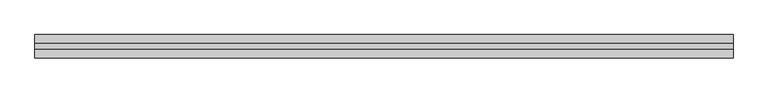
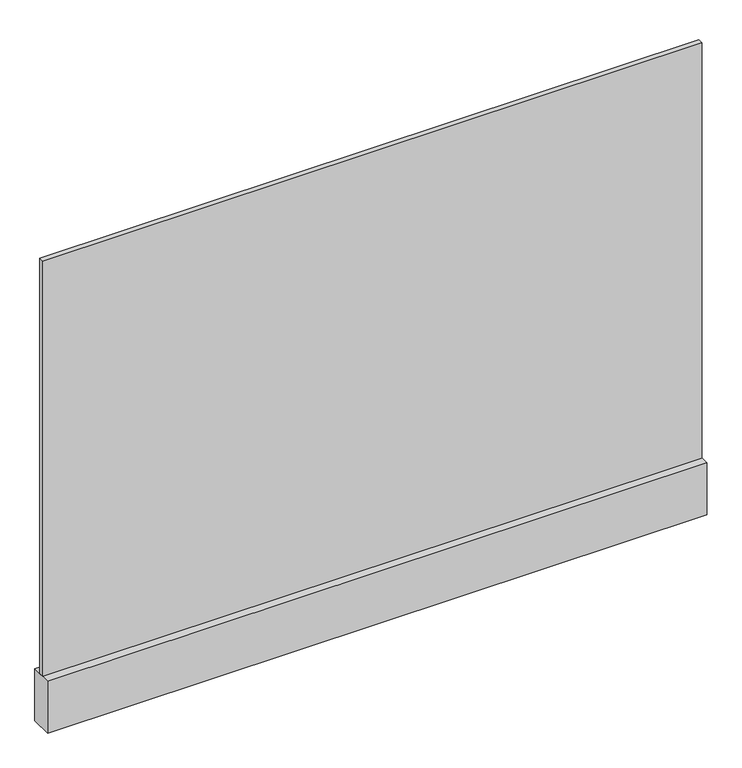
"""IFC4 building model written with IfcOpenShell, lengths in millimetres: plate geometry, r パネル FIX 下框付 : 框 H100."""

import ifcopenshell
import ifcopenshell.guid

model = None  # the IFC model being written
_history = None  # IfcOwnerHistory: only IFC2X3 demands one
_inside = {}  # id of a spatial element -> (the spatial element, [elements in it])
_under = {}  # id of a project, library or spatial element -> (it, [spatial elements below it])
_declared = {}  # id of a project -> (the project, [libraries it declares])
_typed = {}  # id of a type object -> (the type object, [elements of that type])
_made_of = {}  # id of a material, layer set ... -> (it, [elements and type objects made of it])


def new_model(schema):
    """Start an empty IFC model of exactly this schema.

    Asked for "IFC4X3", IfcOpenShell would pick the latest addendum, in which some entities
    have other attributes; the version numbers below select the first issue.
    IFC2X3 requires an IfcOwnerHistory on every rooted entity: one is made here for all.
    """
    global model, _history
    if schema == "IFC4X3":
        model = ifcopenshell.file(schema_version=(4, 3, 0, 0))
    else:
        model = ifcopenshell.file(schema=schema)
    _inside.clear()
    _under.clear()
    _declared.clear()
    _typed.clear()
    _made_of.clear()
    _history = None
    if model.schema == "IFC2X3":
        org = make("IfcOrganization", Name="unknown")
        user = make(
            "IfcPersonAndOrganization",
            ThePerson=make("IfcPerson", FamilyName="unknown"),
            TheOrganization=org,
        )
        app = make(
            "IfcApplication",
            ApplicationDeveloper=org,
            Version="unknown",
            ApplicationFullName="unknown",
            ApplicationIdentifier="unknown",
        )
        _history = make(
            "IfcOwnerHistory",
            OwningUser=user,
            OwningApplication=app,
            ChangeAction="ADDED",
            CreationDate=0,
        )
    return model


def make(cls, **values):
    """One entity of the class cls with the attributes given. An attribute that is None is left unset."""
    return model.create_entity(
        cls, **{name: value for name, value in values.items() if value is not None}
    )


def rooted(cls, **values):
    """An entity with a GlobalId (a new one), such as an element, a storey or a relation."""
    return make(cls, GlobalId=ifcopenshell.guid.new(), OwnerHistory=_history, **values)


def si_unit(unit_type, name, prefix=None):
    """IfcSIUnit, for example si_unit("LENGTHUNIT", "METRE", prefix="MILLI")."""
    return make("IfcSIUnit", UnitType=unit_type, Prefix=prefix, Name=name)


def assignment(units):
    """IfcUnitAssignment: the units of a project."""
    return None if units is None else make("IfcUnitAssignment", Units=units)


def point(xyz):
    """IfcCartesianPoint."""
    return None if xyz is None else make("IfcCartesianPoint", Coordinates=xyz)


def direction(xyz):
    """IfcDirection."""
    return None if xyz is None else make("IfcDirection", DirectionRatios=xyz)


def frame(location, z_axis=None, x_axis=None):
    """IfcAxis2Placement3D, a coordinate frame: its origin and axes. An axis left out is left unset."""
    return make(
        "IfcAxis2Placement3D",
        Location=point(location),
        Axis=direction(z_axis),
        RefDirection=direction(x_axis),
    )


def origin():
    """The frame at (0, 0, 0) with its axes left unset."""
    return frame((0.0, 0.0, 0.0))


def origin_with_axes():
    """The frame at (0, 0, 0) with the z axis (0, 0, 1) and the x axis (1, 0, 0) written out."""
    return frame((0.0, 0.0, 0.0), z_axis=(0.0, 0.0, 1.0), x_axis=(1.0, 0.0, 0.0))


def place(relative_to, where):
    """IfcLocalPlacement: puts the frame where relative to a parent placement (None: the world)."""
    return make(
        "IfcLocalPlacement", PlacementRelTo=relative_to, RelativePlacement=where
    )


def context(
    kind, dimensions, precision=None, world=None, true_north=None, identifier=None
):
    """IfcGeometricRepresentationContext, for example the 3D "Model" context."""
    return make(
        "IfcGeometricRepresentationContext",
        ContextIdentifier=identifier,
        ContextType=kind,
        CoordinateSpaceDimension=dimensions,
        Precision=precision,
        WorldCoordinateSystem=world,
        TrueNorth=true_north,
    )


def project(units=None, contexts=None):
    """IfcProject with its units and contexts."""
    return rooted(
        "IfcProject",
        Name="project",
        RepresentationContexts=contexts,
        UnitsInContext=assignment(units),
    )


def spatial(cls, under=None, at=None, **own):
    """A site, building, storey or space (cls), placed at a placement, below another one or the project."""
    s = rooted(cls, ObjectPlacement=at, **own)
    if under is not None:
        _under.setdefault(under.id(), (under, []))[1].append(s)
    return s


def polyline(points):
    """IfcPolyline through the points."""
    return make("IfcPolyline", Points=[point(p) for p in points])


def outline(outer, holes=None, kind="AREA"):
    """IfcArbitraryClosedProfileDef: a profile drawn as a closed curve; with holes, ...WithVoids."""
    if holes is None:
        return make("IfcArbitraryClosedProfileDef", ProfileType=kind, OuterCurve=outer)
    return make(
        "IfcArbitraryProfileDefWithVoids",
        ProfileType=kind,
        OuterCurve=outer,
        InnerCurves=holes,
    )


def extrude(swept, where, along, depth):
    """IfcExtrudedAreaSolid: the profile swept, set in the frame where, extruded along a direction by depth."""
    return make(
        "IfcExtrudedAreaSolid",
        SweptArea=swept,
        Position=where,
        ExtrudedDirection=direction(along),
        Depth=depth,
    )


def shape(context_of_items, identifier, shape_type, items):
    """IfcShapeRepresentation: the items that make up one representation, for example the "Body"."""
    return make(
        "IfcShapeRepresentation",
        ContextOfItems=context_of_items,
        RepresentationIdentifier=identifier,
        RepresentationType=shape_type,
        Items=items,
    )


def source(mapping_origin, context_of_items, identifier, shape_type, items):
    """IfcRepresentationMap: a shape defined once, which mapped items show again and again."""
    return make(
        "IfcRepresentationMap",
        MappingOrigin=mapping_origin,
        MappedRepresentation=shape(context_of_items, identifier, shape_type, items),
    )


def transform(
    local_origin,
    x_axis=None,
    y_axis=None,
    z_axis=None,
    scale=None,
    scale2=None,
    scale3=None,
    uniform=True,
):
    """IfcCartesianTransformationOperator3D, or its non-uniform kind. x_axis, y_axis, z_axis: its Axis1, 2, 3."""
    if uniform:
        return make(
            "IfcCartesianTransformationOperator3D",
            Axis1=direction(x_axis),
            Axis2=direction(y_axis),
            LocalOrigin=point(local_origin),
            Scale=scale,
            Axis3=direction(z_axis),
        )
    return make(
        "IfcCartesianTransformationOperator3DnonUniform",
        Axis1=direction(x_axis),
        Axis2=direction(y_axis),
        LocalOrigin=point(local_origin),
        Scale=scale,
        Axis3=direction(z_axis),
        Scale2=scale2,
        Scale3=scale3,
    )


def mapped(mapping_source, mapping_target):
    """IfcMappedItem: shows the shape of a source again, moved by a transform."""
    return make(
        "IfcMappedItem", MappingSource=mapping_source, MappingTarget=mapping_target
    )


def made_of(thing, what):
    """Note that an element or type object is made of a material, layer set ...; save() writes the relation."""
    if what is not None:
        _made_of.setdefault(what.id(), (what, []))[1].append(thing)
    return thing


def element(
    cls,
    number,
    at=None,
    inside=None,
    cuts=None,
    type_object=None,
    material=None,
    context=None,
    identifier="Body",
    shape_type=None,
    held_by="IfcProductDefinitionShape",
    body=None,
    shapes=None,
    **own,
):
    """One element of the class cls, such as IfcWall. Its Tag is "e" and its number.

    at: its placement. inside: the storey or other place that contains it. cuts: it is an
    opening in that element (IfcRelVoidsElement). A single representation is given by context,
    identifier, shape_type and body (its items); several are given by shapes. held_by: the class
    of the entity that holds the representations. save() writes the other relations.
    """
    e = rooted(cls, Tag="e%d" % number, ObjectPlacement=at, **own)
    if body is not None:
        shapes = [shape(context, identifier, shape_type, body)]
    if shapes is not None:
        e.Representation = make(held_by, Representations=shapes)
    if inside is not None:
        _inside.setdefault(inside.id(), (inside, []))[1].append(e)
    if cuts is not None:
        rooted(
            "IfcRelVoidsElement", RelatingBuildingElement=cuts, RelatedOpeningElement=e
        )
    if type_object is not None:
        _typed.setdefault(type_object.id(), (type_object, []))[1].append(e)
    return made_of(e, material)


def aggregate(whole, parts):
    """IfcRelAggregates: a whole, such as a stair, and the parts it consists of."""
    return rooted("IfcRelAggregates", RelatingObject=whole, RelatedObjects=parts)


def save(model, path):
    """Write the relations noted so far, then the file.

    IfcRelAggregates (storeys below a building ...), IfcRelContainedInSpatialStructure (elements
    in a storey), IfcRelDefinesByType, IfcRelAssociatesMaterial and IfcRelDeclares: one each for
    every whole, place, type object, material and project.
    """
    for whole, parts in _under.values():
        aggregate(whole, parts)
    for where, things in _inside.values():
        rooted(
            "IfcRelContainedInSpatialStructure",
            RelatedElements=things,
            RelatingStructure=where,
        )
    for kind, things in _typed.values():
        rooted("IfcRelDefinesByType", RelatedObjects=things, RelatingType=kind)
    for what, things in _made_of.values():
        rooted("IfcRelAssociatesMaterial", RelatedObjects=things, RelatingMaterial=what)
    for by, libraries in _declared.values():
        rooted("IfcRelDeclares", RelatingContext=by, RelatedDefinitions=libraries)
    model.write(path)


def plate_b29589f3(model_context):
    return source(origin(), model_context, "Body", "SweptSolid", [
        extrude(outline(polyline([(-600.9309555, -5.0), (-600.9309555, 5.0), (600.9309555, 5.0), (600.9309555, -5.0), (-600.9309555, -5.0)])), frame((0.0, 0.0, 100.0), z_axis=(0.0, 0.0, 1.0), x_axis=(1.0, 0.0, 0.0)), (0.0, 0.0, 1.0), 800.0),
        extrude(outline(polyline([(-600.9309555, -20.0), (-600.9309555, 20.0), (600.9309555, 20.0), (600.9309555, -20.0), (-600.9309555, -20.0)])), origin_with_axes(), (0.0, 0.0, 1.0), 100.0),
    ])


if __name__ == "__main__":
    model = new_model("IFC4")
    model_context = context("Model", 3, world=origin())
    ifc_project = project(units=[si_unit("LENGTHUNIT", "METRE", prefix="MILLI")], contexts=[model_context])
    site = spatial("IfcSite", under=ifc_project)
    building = spatial("IfcBuilding", under=site)
    placement = place(None, origin())
    plate_shape = plate_b29589f3(model_context)
    element("IfcPlate", 1, ObjectType="r パネル FIX 下框付 : 框 H100", at=placement, inside=building, context=model_context, shape_type="MappedRepresentation", body=[
        mapped(plate_shape, transform((0.0, 0.0, 0.0), x_axis=(1.0, 0.0, 0.0), y_axis=(0.0, 1.0, 0.0), z_axis=(0.0, 0.0, 1.0))),
    ])
    save(model, "model.ifc")
